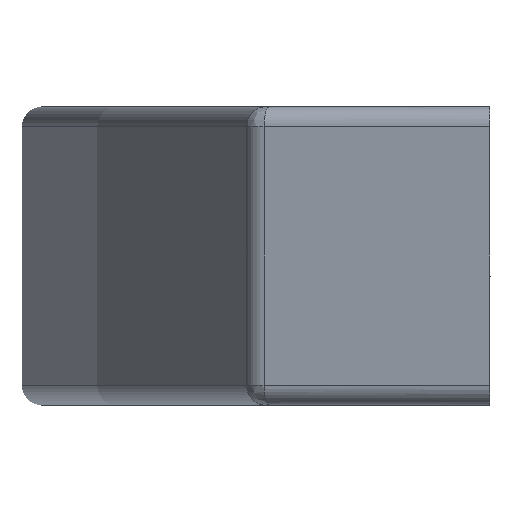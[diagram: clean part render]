
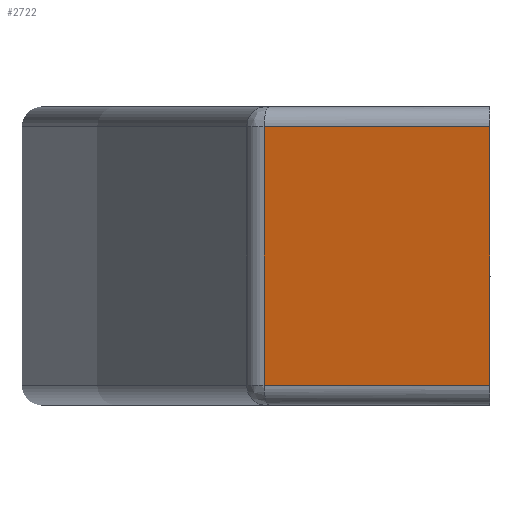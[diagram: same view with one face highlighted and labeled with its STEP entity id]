
A CAD part, left-side view. The second image highlights one B-rep face of the part: STEP entity #2722.
In plain terms, the highlighted planar face has unit normal (-0.97, 0.242, 0).
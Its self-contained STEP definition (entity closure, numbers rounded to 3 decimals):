
#87=PLANE('',#2986);
#434=LINE('',#6572,#560);
#435=LINE('',#6575,#561);
#436=LINE('',#6577,#562);
#437=LINE('',#6578,#563);
#560=VECTOR('',#3586,10.);
#561=VECTOR('',#3589,10.);
#562=VECTOR('',#3590,10.);
#563=VECTOR('',#3591,10.);
#767=FACE_OUTER_BOUND('',#944,.T.);
#944=EDGE_LOOP('',(#2468,#2469,#2470,#2471));
#1315=VERTEX_POINT('',#6566);
#1316=VERTEX_POINT('',#6570);
#1317=VERTEX_POINT('',#6574);
#1318=VERTEX_POINT('',#6576);
#1715=EDGE_CURVE('',#1315,#1316,#434,.T.);
#1716=EDGE_CURVE('',#1317,#1315,#435,.T.);
#1717=EDGE_CURVE('',#1318,#1317,#436,.T.);
#1718=EDGE_CURVE('',#1318,#1316,#437,.T.);
#2468=ORIENTED_EDGE('',*,*,#1715,.F.);
#2469=ORIENTED_EDGE('',*,*,#1716,.F.);
#2470=ORIENTED_EDGE('',*,*,#1717,.F.);
#2471=ORIENTED_EDGE('',*,*,#1718,.T.);
#2722=ADVANCED_FACE('',(#767),#87,.T.);
#2986=AXIS2_PLACEMENT_3D('',#6573,#3587,#3588);
#3586=DIRECTION('',(-0.242,-0.97,0.));
#3587=DIRECTION('center_axis',(-0.97,0.242,0.));
#3588=DIRECTION('ref_axis',(-0.242,-0.97,0.));
#3589=DIRECTION('',(0.,0.,1.));
#3590=DIRECTION('',(0.242,0.97,0.));
#3591=DIRECTION('',(0.,0.,1.));
#6566=CARTESIAN_POINT('',(-68.169,11.354,14.));
#6570=CARTESIAN_POINT('',(-71.,0.,14.));
#6572=CARTESIAN_POINT('',(-65.846,20.67,14.));
#6573=CARTESIAN_POINT('Origin',(-68.169,11.354,0.));
#6574=CARTESIAN_POINT('',(-68.169,11.354,1.));
#6575=CARTESIAN_POINT('',(-68.169,11.354,0.));
#6576=CARTESIAN_POINT('',(-71.,0.,1.));
#6577=CARTESIAN_POINT('',(-65.846,20.67,1.));
#6578=CARTESIAN_POINT('',(-71.,0.,0.));
